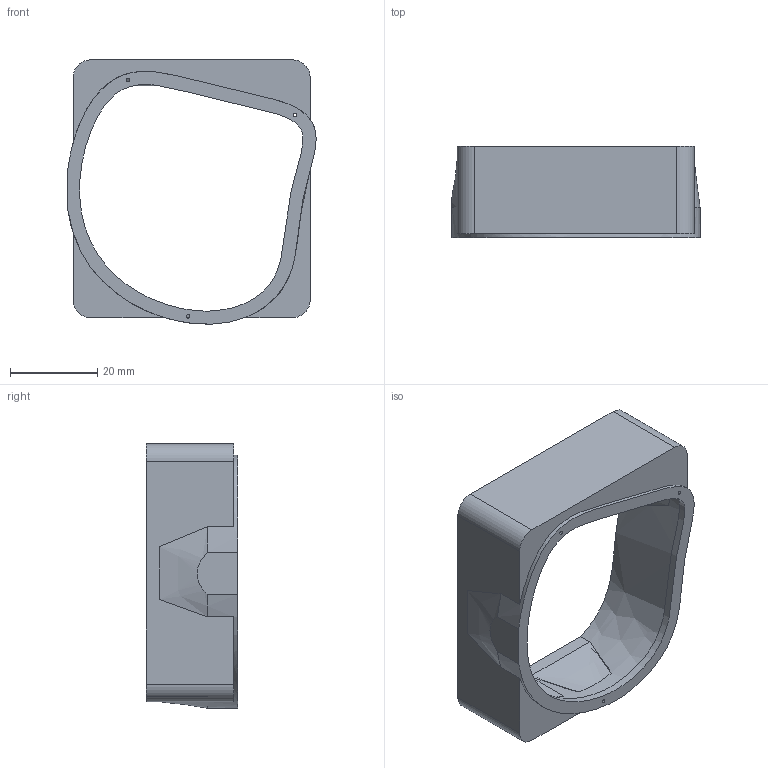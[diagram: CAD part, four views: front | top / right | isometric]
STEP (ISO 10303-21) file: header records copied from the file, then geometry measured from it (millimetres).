
FILE_DESCRIPTION(/* description */ ('STEP AP242 Edition 2','CAx-IF Rec.Pracs.---Representation and Presentation of Product Manufacturing Information (PMI)---4.0---2014-10-13','CAx-IF Rec.Pracs.---3D Tessellated Geometry---0.4---2014-09-14','2;1','CAx-IF Rec.Pracs.---User Defined Attributes---1.5---2016-08-15'),/* implementation_level */ '2;1');
FILE_NAME(/* name */ 'main - Part 33 - left lens assembly shell',/* time_stamp */ '2026-11-08T20:03:44Z',/* author */ (''),/* organization */ (''),/* preprocessor_version */ 'ST-DEVELOPER v20',/* originating_system */ 'ONSHAPE BY PTC INC, 1.223',/* authorisation */ ' ');
FILE_SCHEMA (('AP242_MANAGED_MODEL_BASED_3D_ENGINEERING_MIM_LF { 1 0 10303 442 3 1 4 }'));
Length unit declared in the file: metre
Products named in the file (1): Part 33 - left lens assembly shell
Bounding box: 56.81 x 20.9 x 60.5 mm (x, y, z)
Volume: 10987.5 mm3; surface area: 11102.3 mm2
Topology: 1 solids, 1 shells, 43 faces, 127 edges, 88 vertices
Faces by surface type: plane 20, bspline 16, cylinder 7
Full cylindrical faces by diameter (mm): 0.8 x3
Entity records: 5644 total; most frequent: CARTESIAN_POINT 4585, ORIENTED_EDGE 240, DIRECTION 152, EDGE_CURVE 120, VERTEX_POINT 87, LINE 68, VECTOR 68, EDGE_LOOP 59
